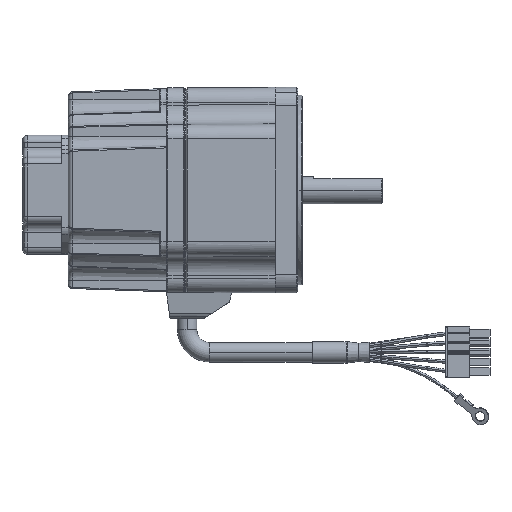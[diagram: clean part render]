
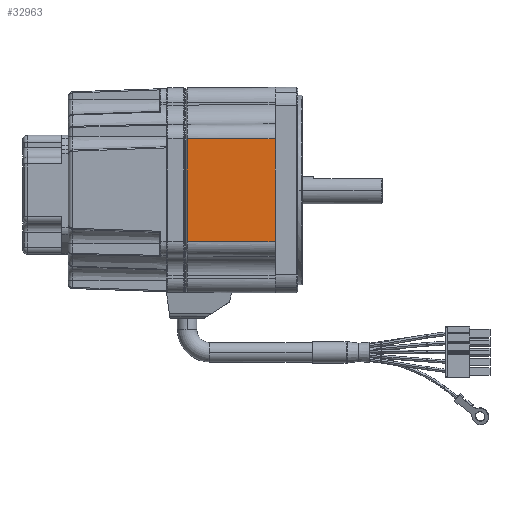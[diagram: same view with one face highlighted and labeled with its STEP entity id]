
A CAD part, left-side view. The second image highlights one B-rep face of the part: STEP entity #32963.
In plain terms, the highlighted planar face has unit normal (-1, 0.006, 0).
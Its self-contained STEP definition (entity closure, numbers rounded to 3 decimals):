
#691 = PLANE ( 'NONE',  #4502 ) ;
#1157 = CARTESIAN_POINT ( 'NONE',  ( -44.753, 48.5, -22.5 ) ) ;
#1400 = ORIENTED_EDGE ( 'NONE', *, *, #37833, .F. ) ;
#1954 = ORIENTED_EDGE ( 'NONE', *, *, #62250, .F. ) ;
#2266 = EDGE_CURVE ( 'NONE', #54954, #66943, #5645, .T. ) ;
#4502 = AXIS2_PLACEMENT_3D ( 'NONE', #12206, #26496, #36672 ) ;
#5607 = B_SPLINE_CURVE_WITH_KNOTS ( 'NONE', 3,
 ( #5674, #10773, #32127, #52201, #52869 ),
 .UNSPECIFIED., .F., .F.,
 ( 4, 1, 4 ),
 ( 0., 0.5, 1. ),
 .UNSPECIFIED. ) ;
#5645 = B_SPLINE_CURVE_WITH_KNOTS ( 'NONE', 3,
 ( #48726, #16513, #43625, #53506 ),
 .UNSPECIFIED., .F., .F.,
 ( 4, 4 ),
 ( 0., 1. ),
 .UNSPECIFIED. ) ;
#5674 = CARTESIAN_POINT ( 'NONE',  ( -45., 10., -22.5 ) ) ;
#9899 = ORIENTED_EDGE ( 'NONE', *, *, #41702, .T. ) ;
#10773 = CARTESIAN_POINT ( 'NONE',  ( -44.959, 16.417, -22.5 ) ) ;
#10877 = FACE_OUTER_BOUND ( 'NONE', #13989, .T. ) ;
#11724 = CARTESIAN_POINT ( 'NONE',  ( -44.753, 48.5, 22.5 ) ) ;
#12206 = CARTESIAN_POINT ( 'NONE',  ( -45., 10., -22.5 ) ) ;
#13989 = EDGE_LOOP ( 'NONE', ( #44119, #9899, #1954, #1400 ) ) ;
#16513 = CARTESIAN_POINT ( 'NONE',  ( -45., 10., 7.5 ) ) ;
#16817 = CARTESIAN_POINT ( 'NONE',  ( -44.835, 35.667, 22.5 ) ) ;
#20415 = B_SPLINE_CURVE_WITH_KNOTS ( 'NONE', 3,
 ( #1157, #36804, #62328, #51466 ),
 .UNSPECIFIED., .F., .F.,
 ( 4, 4 ),
 ( 0., 1. ),
 .UNSPECIFIED. ) ;
#26496 = DIRECTION ( 'NONE',  ( -1., 0.006, 0. ) ) ;
#26770 = VERTEX_POINT ( 'NONE', #48121 ) ;
#32127 = CARTESIAN_POINT ( 'NONE',  ( -44.877, 29.25, -22.5 ) ) ;
#32963 = ADVANCED_FACE ( 'NONE', ( #10877 ), #691, .T. ) ;
#36672 = DIRECTION ( 'NONE',  ( 0., 0., 1. ) ) ;
#36804 = CARTESIAN_POINT ( 'NONE',  ( -44.753, 48.5, -7.5 ) ) ;
#37833 = EDGE_CURVE ( 'NONE', #66943, #26770, #5607, .T. ) ;
#41702 = EDGE_CURVE ( 'NONE', #54954, #62984, #63253, .T. ) ;
#43625 = CARTESIAN_POINT ( 'NONE',  ( -45., 10., -7.5 ) ) ;
#44119 = ORIENTED_EDGE ( 'NONE', *, *, #2266, .F. ) ;
#47704 = CARTESIAN_POINT ( 'NONE',  ( -45., 10., 22.5 ) ) ;
#48121 = CARTESIAN_POINT ( 'NONE',  ( -44.753, 48.5, -22.5 ) ) ;
#48726 = CARTESIAN_POINT ( 'NONE',  ( -45., 10., 22.5 ) ) ;
#51466 = CARTESIAN_POINT ( 'NONE',  ( -44.753, 48.5, 22.5 ) ) ;
#52201 = CARTESIAN_POINT ( 'NONE',  ( -44.794, 42.083, -22.5 ) ) ;
#52869 = CARTESIAN_POINT ( 'NONE',  ( -44.753, 48.5, -22.5 ) ) ;
#53506 = CARTESIAN_POINT ( 'NONE',  ( -45., 10., -22.5 ) ) ;
#54954 = VERTEX_POINT ( 'NONE', #61603 ) ;
#60386 = CARTESIAN_POINT ( 'NONE',  ( -45., 10., -22.5 ) ) ;
#61603 = CARTESIAN_POINT ( 'NONE',  ( -45., 10., 22.5 ) ) ;
#62250 = EDGE_CURVE ( 'NONE', #26770, #62984, #20415, .T. ) ;
#62292 = CARTESIAN_POINT ( 'NONE',  ( -44.753, 48.5, 22.5 ) ) ;
#62328 = CARTESIAN_POINT ( 'NONE',  ( -44.753, 48.5, 7.5 ) ) ;
#62984 = VERTEX_POINT ( 'NONE', #62292 ) ;
#63253 = B_SPLINE_CURVE_WITH_KNOTS ( 'NONE', 3,
 ( #47704, #63364, #16817, #11724 ),
 .UNSPECIFIED., .F., .F.,
 ( 4, 4 ),
 ( 0., 1. ),
 .UNSPECIFIED. ) ;
#63364 = CARTESIAN_POINT ( 'NONE',  ( -44.918, 22.833, 22.5 ) ) ;
#66943 = VERTEX_POINT ( 'NONE', #60386 ) ;
